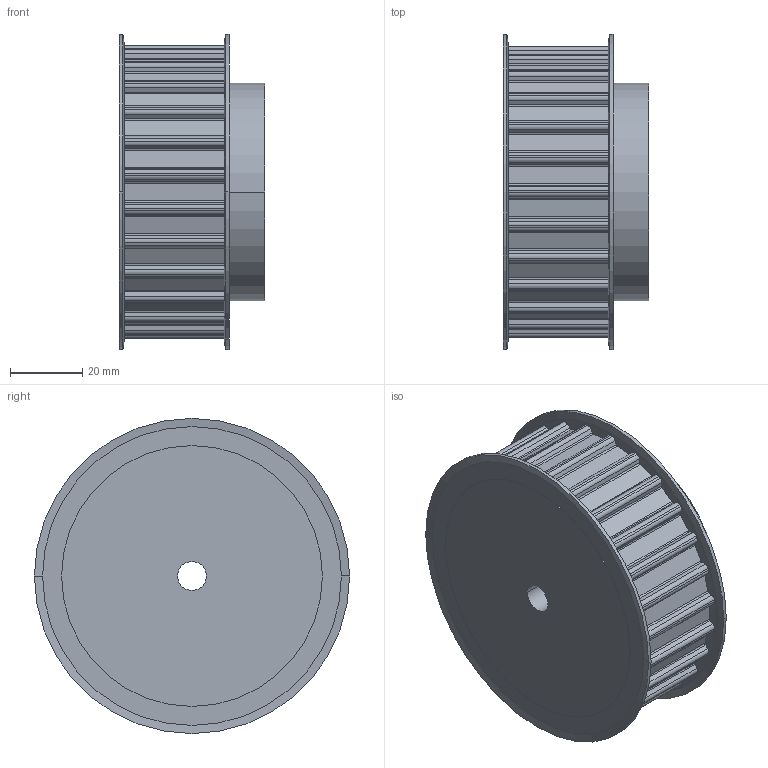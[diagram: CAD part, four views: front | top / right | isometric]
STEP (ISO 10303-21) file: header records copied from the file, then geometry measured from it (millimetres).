
FILE_DESCRIPTION( ( '' ), '1' );
FILE_NAME( 'C:/Users/Stangenbergd/Documents/CAD_Step/1/16832600.stp', '2021-10-19T09:45:41', ( '' ), ( '' ), ' ', ' ', ' ' );
FILE_SCHEMA( ( 'CONFIG_CONTROL_DESIGN' ) );
Length unit declared in the file: millimetre
Products named in the file (1): 1
Bounding box: 40.17 x 87 x 87 mm (x, y, z)
Volume: 171051.8 mm3; surface area: 26312 mm2
Topology: 1 solids, 1 shells, 235 faces, 676 edges, 448 vertices
Faces by surface type: cylinder 142, plane 85, cone 8
Entity records: 7866 total; most frequent: DIRECTION 1440, CARTESIAN_POINT 1360, ORIENTED_EDGE 1352, EDGE_CURVE 676, AXIS2_PLACEMENT_3D 528, VERTEX_POINT 448, LINE 384, VECTOR 384
